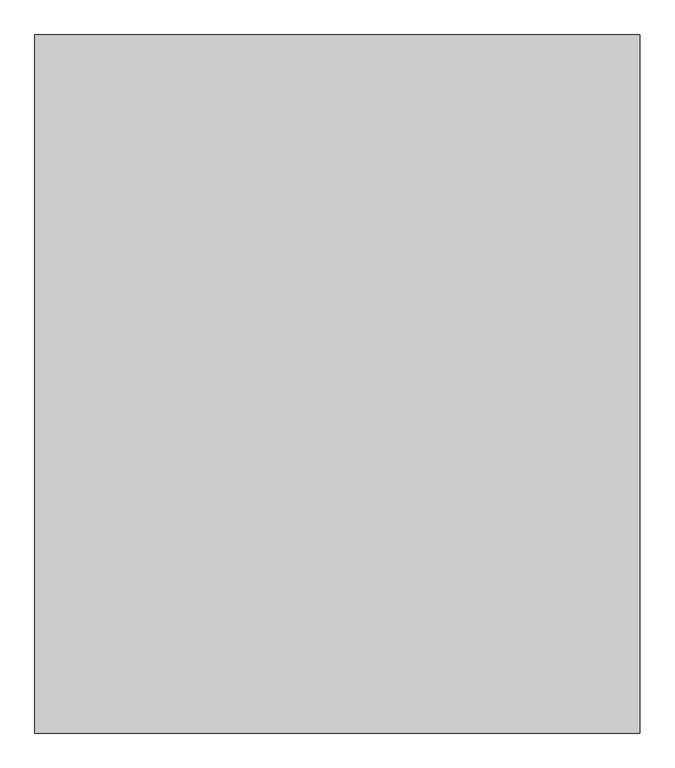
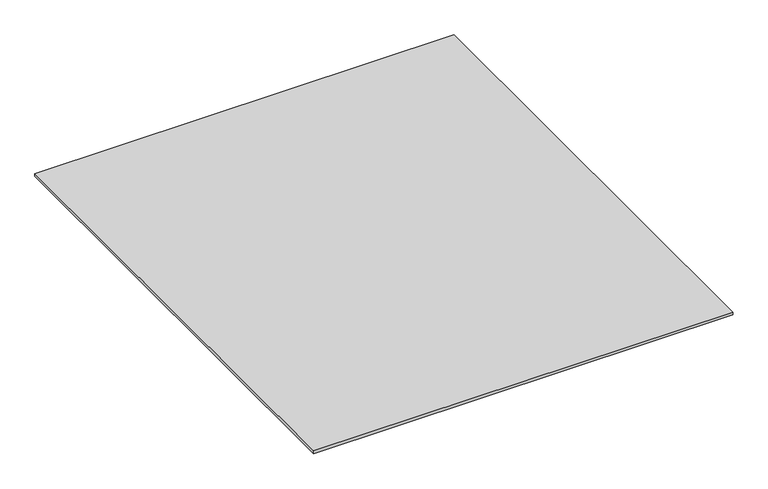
"""IFC4 building model written with IfcOpenShell, lengths in millimetres: proxy geometry, Фиброцементная плита LATONIT окрашенная : 10 мм."""

from ifc_helpers import new_model, si_unit, frame, origin, place, context, project, spatial, polyline, outline, extrude, source, transform, mapped, element, save


def generic_models_4f86fac6(model_context):
    return source(origin(), model_context, "Body", "SweptSolid", [
        extrude(outline(polyline([(1500.0, 1730.0), (1500.0, 0.0), (0.0, 0.0), (0.0, 1730.0), (1500.0, 1730.0)])), frame((0.0, 0.0, 240.0), z_axis=(0.0, 0.0, 1.0), x_axis=(1.0, 0.0, 0.0)), (0.0, 0.0, 1.0), 10.0),
    ])


if __name__ == "__main__":
    model = new_model("IFC4")
    model_context = context("Model", 3, world=origin())
    ifc_project = project(units=[si_unit("LENGTHUNIT", "METRE", prefix="MILLI")], contexts=[model_context])
    site = spatial("IfcSite", under=ifc_project)
    building = spatial("IfcBuilding", under=site)
    placement = place(None, origin())
    generic_models_shape = generic_models_4f86fac6(model_context)
    element("IfcBuildingElementProxy", 1, Name="Фиброцементная плита LATONIT окрашенная : 10 мм", ObjectType="Фиброцементная плита LATONIT окрашенная : 10 мм", at=placement, inside=building, context=model_context, shape_type="MappedRepresentation", body=[
        mapped(generic_models_shape, transform((0.0, 0.0, 0.0), x_axis=(1.0, 0.0, 0.0), y_axis=(0.0, 1.0, 0.0), z_axis=(0.0, 0.0, 1.0))),
    ])
    save(model, "model.ifc")
